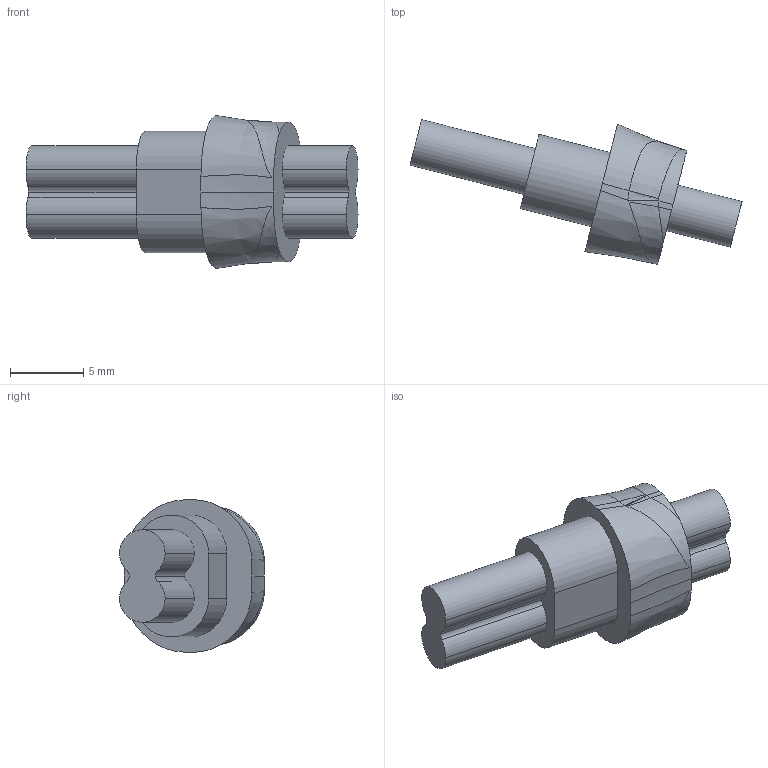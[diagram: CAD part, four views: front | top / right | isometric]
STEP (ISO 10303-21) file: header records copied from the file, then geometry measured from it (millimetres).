
FILE_DESCRIPTION (( 'STEP AP203' ), '1' );
FILE_NAME ('piece metal DEF.STEP', '2016-02-16T19:12:21', ( '' ), ( '' ), 'SwSTEP 2.0', 'SolidWorks 2010', '' );
FILE_SCHEMA (( 'CONFIG_CONTROL_DESIGN' ));
Length unit declared in the file: millimetre
Products named in the file (1): piece metal DEF
Bounding box: 22.6 x 9.86 x 10.39 mm (x, y, z)
Volume: 733.7 mm3; surface area: 615.5 mm2
Topology: 1 solids, 1 shells, 57 faces, 156 edges, 104 vertices
Faces by surface type: cylinder 24, bspline 22, plane 11
Entity records: 4908 total; most frequent: CARTESIAN_POINT 3521, ORIENTED_EDGE 312, DIRECTION 216, EDGE_CURVE 156, VERTEX_POINT 104, AXIS2_PLACEMENT_3D 86, B_SPLINE_CURVE_WITH_KNOTS 62, EDGE_LOOP 60
